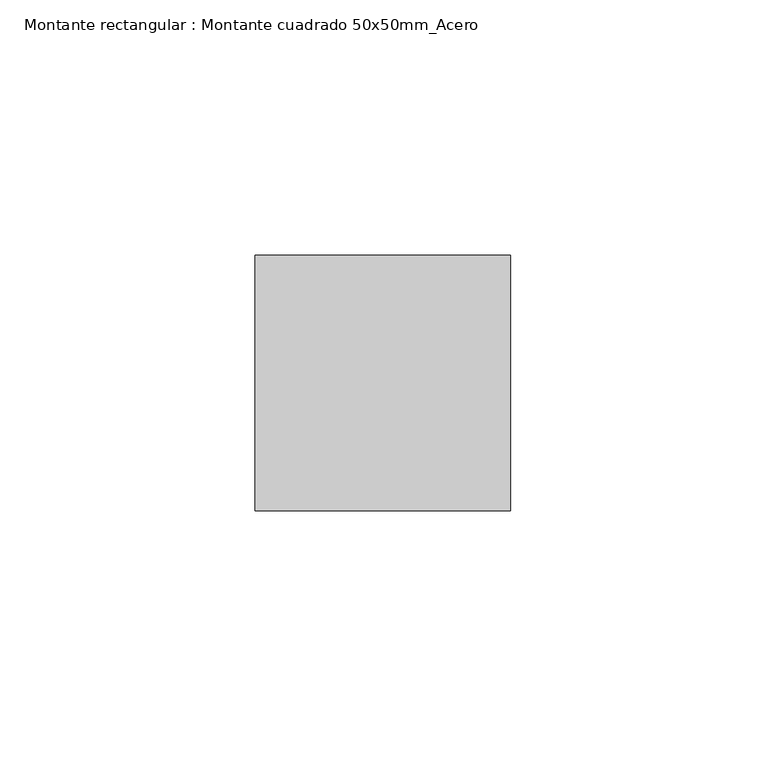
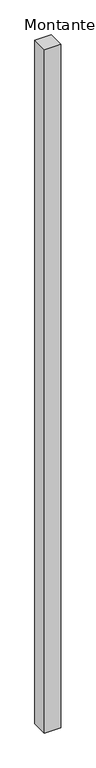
"""IFC4 building model written with IfcOpenShell, lengths in millimetres: member geometry, Montante rectangular : Montante cuadrado 50x50mm_Acero."""

import ifcopenshell
import ifcopenshell.guid

model = None  # the IFC model being written
_history = None  # IfcOwnerHistory: only IFC2X3 demands one
_inside = {}  # id of a spatial element -> (the spatial element, [elements in it])
_under = {}  # id of a project, library or spatial element -> (it, [spatial elements below it])
_declared = {}  # id of a project -> (the project, [libraries it declares])
_typed = {}  # id of a type object -> (the type object, [elements of that type])
_made_of = {}  # id of a material, layer set ... -> (it, [elements and type objects made of it])


def new_model(schema):
    """Start an empty IFC model of exactly this schema.

    Asked for "IFC4X3", IfcOpenShell would pick the latest addendum, in which some entities
    have other attributes; the version numbers below select the first issue.
    IFC2X3 requires an IfcOwnerHistory on every rooted entity: one is made here for all.
    """
    global model, _history
    if schema == "IFC4X3":
        model = ifcopenshell.file(schema_version=(4, 3, 0, 0))
    else:
        model = ifcopenshell.file(schema=schema)
    _inside.clear()
    _under.clear()
    _declared.clear()
    _typed.clear()
    _made_of.clear()
    _history = None
    if model.schema == "IFC2X3":
        org = make("IfcOrganization", Name="unknown")
        user = make(
            "IfcPersonAndOrganization",
            ThePerson=make("IfcPerson", FamilyName="unknown"),
            TheOrganization=org,
        )
        app = make(
            "IfcApplication",
            ApplicationDeveloper=org,
            Version="unknown",
            ApplicationFullName="unknown",
            ApplicationIdentifier="unknown",
        )
        _history = make(
            "IfcOwnerHistory",
            OwningUser=user,
            OwningApplication=app,
            ChangeAction="ADDED",
            CreationDate=0,
        )
    return model


def make(cls, **values):
    """One entity of the class cls with the attributes given. An attribute that is None is left unset."""
    return model.create_entity(
        cls, **{name: value for name, value in values.items() if value is not None}
    )


def rooted(cls, **values):
    """An entity with a GlobalId (a new one), such as an element, a storey or a relation."""
    return make(cls, GlobalId=ifcopenshell.guid.new(), OwnerHistory=_history, **values)


def si_unit(unit_type, name, prefix=None):
    """IfcSIUnit, for example si_unit("LENGTHUNIT", "METRE", prefix="MILLI")."""
    return make("IfcSIUnit", UnitType=unit_type, Prefix=prefix, Name=name)


def assignment(units):
    """IfcUnitAssignment: the units of a project."""
    return None if units is None else make("IfcUnitAssignment", Units=units)


def point(xyz):
    """IfcCartesianPoint."""
    return None if xyz is None else make("IfcCartesianPoint", Coordinates=xyz)


def direction(xyz):
    """IfcDirection."""
    return None if xyz is None else make("IfcDirection", DirectionRatios=xyz)


def frame(location, z_axis=None, x_axis=None):
    """IfcAxis2Placement3D, a coordinate frame: its origin and axes. An axis left out is left unset."""
    return make(
        "IfcAxis2Placement3D",
        Location=point(location),
        Axis=direction(z_axis),
        RefDirection=direction(x_axis),
    )


def origin():
    """The frame at (0, 0, 0) with its axes left unset."""
    return frame((0.0, 0.0, 0.0))


def place(relative_to, where):
    """IfcLocalPlacement: puts the frame where relative to a parent placement (None: the world)."""
    return make(
        "IfcLocalPlacement", PlacementRelTo=relative_to, RelativePlacement=where
    )


def context(
    kind, dimensions, precision=None, world=None, true_north=None, identifier=None
):
    """IfcGeometricRepresentationContext, for example the 3D "Model" context."""
    return make(
        "IfcGeometricRepresentationContext",
        ContextIdentifier=identifier,
        ContextType=kind,
        CoordinateSpaceDimension=dimensions,
        Precision=precision,
        WorldCoordinateSystem=world,
        TrueNorth=true_north,
    )


def project(units=None, contexts=None):
    """IfcProject with its units and contexts."""
    return rooted(
        "IfcProject",
        Name="project",
        RepresentationContexts=contexts,
        UnitsInContext=assignment(units),
    )


def spatial(cls, under=None, at=None, **own):
    """A site, building, storey or space (cls), placed at a placement, below another one or the project."""
    s = rooted(cls, ObjectPlacement=at, **own)
    if under is not None:
        _under.setdefault(under.id(), (under, []))[1].append(s)
    return s


def polyline(points):
    """IfcPolyline through the points."""
    return make("IfcPolyline", Points=[point(p) for p in points])


def outline(outer, holes=None, kind="AREA"):
    """IfcArbitraryClosedProfileDef: a profile drawn as a closed curve; with holes, ...WithVoids."""
    if holes is None:
        return make("IfcArbitraryClosedProfileDef", ProfileType=kind, OuterCurve=outer)
    return make(
        "IfcArbitraryProfileDefWithVoids",
        ProfileType=kind,
        OuterCurve=outer,
        InnerCurves=holes,
    )


def extrude(swept, where, along, depth):
    """IfcExtrudedAreaSolid: the profile swept, set in the frame where, extruded along a direction by depth."""
    return make(
        "IfcExtrudedAreaSolid",
        SweptArea=swept,
        Position=where,
        ExtrudedDirection=direction(along),
        Depth=depth,
    )


def shape(context_of_items, identifier, shape_type, items):
    """IfcShapeRepresentation: the items that make up one representation, for example the "Body"."""
    return make(
        "IfcShapeRepresentation",
        ContextOfItems=context_of_items,
        RepresentationIdentifier=identifier,
        RepresentationType=shape_type,
        Items=items,
    )


def source(mapping_origin, context_of_items, identifier, shape_type, items):
    """IfcRepresentationMap: a shape defined once, which mapped items show again and again."""
    return make(
        "IfcRepresentationMap",
        MappingOrigin=mapping_origin,
        MappedRepresentation=shape(context_of_items, identifier, shape_type, items),
    )


def transform(
    local_origin,
    x_axis=None,
    y_axis=None,
    z_axis=None,
    scale=None,
    scale2=None,
    scale3=None,
    uniform=True,
):
    """IfcCartesianTransformationOperator3D, or its non-uniform kind. x_axis, y_axis, z_axis: its Axis1, 2, 3."""
    if uniform:
        return make(
            "IfcCartesianTransformationOperator3D",
            Axis1=direction(x_axis),
            Axis2=direction(y_axis),
            LocalOrigin=point(local_origin),
            Scale=scale,
            Axis3=direction(z_axis),
        )
    return make(
        "IfcCartesianTransformationOperator3DnonUniform",
        Axis1=direction(x_axis),
        Axis2=direction(y_axis),
        LocalOrigin=point(local_origin),
        Scale=scale,
        Axis3=direction(z_axis),
        Scale2=scale2,
        Scale3=scale3,
    )


def mapped(mapping_source, mapping_target):
    """IfcMappedItem: shows the shape of a source again, moved by a transform."""
    return make(
        "IfcMappedItem", MappingSource=mapping_source, MappingTarget=mapping_target
    )


def made_of(thing, what):
    """Note that an element or type object is made of a material, layer set ...; save() writes the relation."""
    if what is not None:
        _made_of.setdefault(what.id(), (what, []))[1].append(thing)
    return thing


def element(
    cls,
    number,
    at=None,
    inside=None,
    cuts=None,
    type_object=None,
    material=None,
    context=None,
    identifier="Body",
    shape_type=None,
    held_by="IfcProductDefinitionShape",
    body=None,
    shapes=None,
    **own,
):
    """One element of the class cls, such as IfcWall. Its Tag is "e" and its number.

    at: its placement. inside: the storey or other place that contains it. cuts: it is an
    opening in that element (IfcRelVoidsElement). A single representation is given by context,
    identifier, shape_type and body (its items); several are given by shapes. held_by: the class
    of the entity that holds the representations. save() writes the other relations.
    """
    e = rooted(cls, Tag="e%d" % number, ObjectPlacement=at, **own)
    if body is not None:
        shapes = [shape(context, identifier, shape_type, body)]
    if shapes is not None:
        e.Representation = make(held_by, Representations=shapes)
    if inside is not None:
        _inside.setdefault(inside.id(), (inside, []))[1].append(e)
    if cuts is not None:
        rooted(
            "IfcRelVoidsElement", RelatingBuildingElement=cuts, RelatedOpeningElement=e
        )
    if type_object is not None:
        _typed.setdefault(type_object.id(), (type_object, []))[1].append(e)
    return made_of(e, material)


def aggregate(whole, parts):
    """IfcRelAggregates: a whole, such as a stair, and the parts it consists of."""
    return rooted("IfcRelAggregates", RelatingObject=whole, RelatedObjects=parts)


def save(model, path):
    """Write the relations noted so far, then the file.

    IfcRelAggregates (storeys below a building ...), IfcRelContainedInSpatialStructure (elements
    in a storey), IfcRelDefinesByType, IfcRelAssociatesMaterial and IfcRelDeclares: one each for
    every whole, place, type object, material and project.
    """
    for whole, parts in _under.values():
        aggregate(whole, parts)
    for where, things in _inside.values():
        rooted(
            "IfcRelContainedInSpatialStructure",
            RelatedElements=things,
            RelatingStructure=where,
        )
    for kind, things in _typed.values():
        rooted("IfcRelDefinesByType", RelatedObjects=things, RelatingType=kind)
    for what, things in _made_of.values():
        rooted("IfcRelAssociatesMaterial", RelatedObjects=things, RelatingMaterial=what)
    for by, libraries in _declared.values():
        rooted("IfcRelDeclares", RelatingContext=by, RelatedDefinitions=libraries)
    model.write(path)


def montante_rectangular_montante_cuadrado_50x50mm_acero_e5dd1eb4(model_context):
    return source(origin(), model_context, "Body", "SweptSolid", [
        extrude(outline(polyline([(-50.0, 0.0), (-50.0, 50.0), (0.0, 50.0), (0.0, 0.0), (-50.0, 0.0)])), frame((0.0, 0.0, -2200.0), z_axis=(0.0, 0.0, 1.0), x_axis=(1.0, 0.0, 0.0)), (0.0, 0.0, 1.0), 2200.0),
    ])


if __name__ == "__main__":
    model = new_model("IFC4")
    model_context = context("Model", 3, world=origin())
    ifc_project = project(units=[si_unit("LENGTHUNIT", "METRE", prefix="MILLI")], contexts=[model_context])
    site = spatial("IfcSite", under=ifc_project)
    building = spatial("IfcBuilding", under=site)
    placement = place(None, origin())
    montante_rectangular_montante_cuadrado_50x50mm_acero_shape = montante_rectangular_montante_cuadrado_50x50mm_acero_e5dd1eb4(model_context)
    element("IfcMember", 1, ObjectType="Montante rectangular : Montante cuadrado 50x50mm_Acero", at=placement, inside=building, context=model_context, shape_type="MappedRepresentation", body=[
        mapped(montante_rectangular_montante_cuadrado_50x50mm_acero_shape, transform((0.0, 0.0, 0.0), x_axis=(1.0, 0.0, 0.0), y_axis=(0.0, 1.0, 0.0), z_axis=(0.0, 0.0, 1.0))),
    ])
    save(model, "model.ifc")
